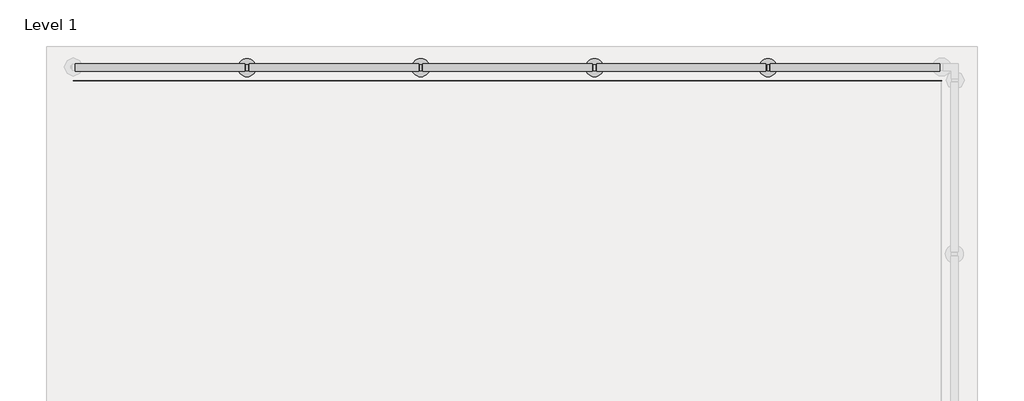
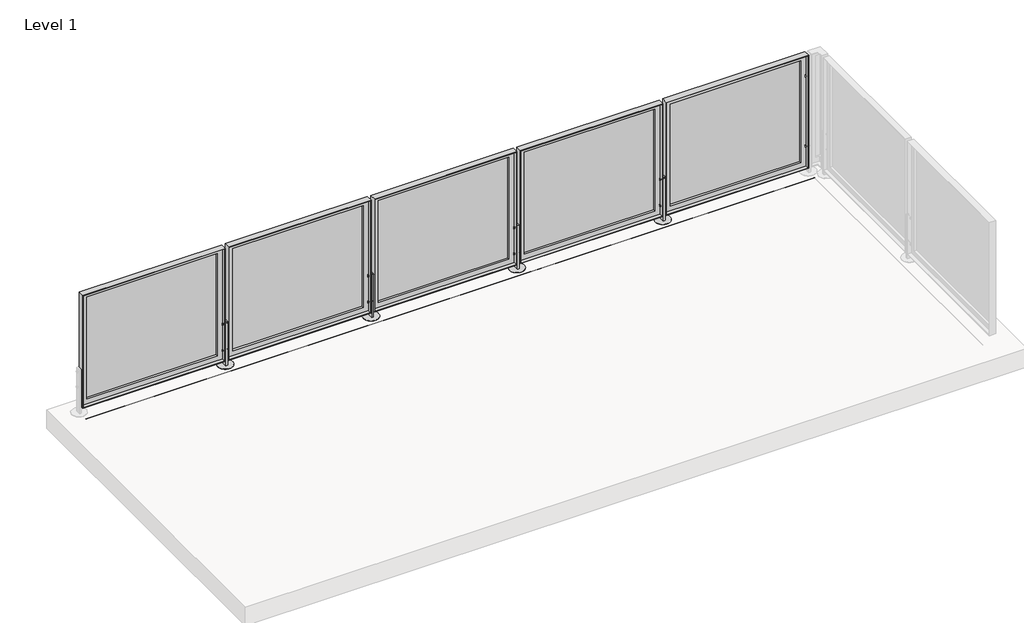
# One storey, part 29 of 37: 1 railing.
"""IFC4 building model written with IfcOpenShell, lengths in millimetres."""

from ifc_helpers import new_model, si_unit, point, frame, frame_2d, origin, origin_with_axes, place, context, project, spatial, polyline, circle_curve, trimmed, segment, composite_curve, outline, extrude, faceted_brep, element, save
from ifc_brep_helpers import plane_surface, cylinder_surface, advanced_brep

model = new_model("IFC4")

# Units and contexts
model_context = context("Model", 3, world=origin())
ifc_project = project(units=[si_unit("LENGTHUNIT", "METRE", prefix="MILLI")], contexts=[model_context])

# Site, building, storey
site = spatial("IfcSite", under=ifc_project)
building = spatial("IfcBuilding", under=site)
storey = spatial("IfcBuildingStorey", under=building, Name="Level 1", Elevation=0.0)

# Railing
placement = place(None, origin())
element("IfcRailing", 1, ObjectType="Metal-Panel-VIVA-FRAME-Top_Core-Straight", at=placement, inside=storey, context=model_context, shape_type="SolidModel", body=[
    extrude(outline(composite_curve([segment(trimmed(circle_curve(frame_2d((5915.4866335, -0.254)), 0.254), [point((5915.2326335, -0.254))], [point((5915.7406335, -0.254))], False, "CARTESIAN"), True, "CONTINUOUS"), segment(trimmed(circle_curve(frame_2d((5915.4866335, -0.254)), 0.254), [point((5915.7406335, -0.254))], [point((5915.2326335, -0.254))], False, "CARTESIAN"), True, "CONTINUOUS")], self_intersect=False)), frame((-39039.643347, 0.0, 0.0), z_axis=(1.0, 0.0, 0.0), x_axis=(0.0, 1.0, 0.0)), (0.0, 0.0, 1.0), 6350.0),
    extrude(outline(composite_curve([segment(trimmed(circle_curve(frame_2d((5915.4866335, -0.254)), 0.254), [point((5915.2326335, -0.254))], [point((5915.7406335, -0.254))], False, "CARTESIAN"), True, "CONTINUOUS"), segment(trimmed(circle_curve(frame_2d((5915.4866335, -0.254)), 0.254), [point((5915.7406335, -0.254))], [point((5915.2326335, -0.254))], False, "CARTESIAN"), True, "CONTINUOUS")], self_intersect=False)), frame((-39039.643347, 0.0, 0.0), z_axis=(1.0, 0.0, 0.0), x_axis=(0.0, 1.0, 0.0)), (0.0, 0.0, 1.0), 6350.0),
    extrude(outline(polyline([(-33918.8168901, 6038.2970335), (-32730.4698039, 6038.2970335), (-32730.4698039, 6035.2970335), (-33918.8168901, 6035.2970335), (-33918.8168901, 6038.2970335)])), frame((0.0, 0.0, 76.1959569), z_axis=(0.0, 0.0, 1.0), x_axis=(1.0, 0.0, 0.0)), (0.0, 0.0, 1.0), 990.5826861),
    faceted_brep([(-33944.2168901, 6038.2970335, 1092.1786431), (-32705.0698039, 6038.2970335, 1092.1786431), (-32705.0698039, 6038.2970335, 50.7959569), (-33944.2168901, 6038.2970335, 50.7959569), (-33918.8168901, 6038.2970335, 1066.7786431), (-33918.8168901, 6038.2970335, 76.1959569), (-32730.4698039, 6038.2970335, 76.1959569), (-32730.4698039, 6038.2970335, 1066.7786431), (-33918.8168901, 6035.2970335, 76.1959569), (-32730.4698039, 6035.2970335, 76.1959569), (-32730.4698039, 6035.2970335, 1066.7786431), (-33918.8168901, 6035.2970335, 1066.7786431), (-33938.2224901, 5984.4970335, 56.7903569), (-32711.0642039, 5984.4970335, 56.7903569), (-32711.0642039, 6015.3072335, 56.7903569), (-33938.2224901, 6015.3072335, 56.7903569), (-32711.0642039, 5984.4970335, 1086.1842431), (-32711.0642039, 6015.3072335, 1086.1842431), (-33938.2224901, 6015.3072335, 1086.1842431), (-33938.2224901, 5984.4970335, 1086.1842431), (-32705.0698039, 5984.4970335, 50.7959569), (-32705.0698039, 5984.4970335, 1092.1786431), (-33944.2168901, 5984.4970335, 1092.1786431), (-33944.2168901, 5984.4970335, 50.7959569), (-33893.4168901, 6035.2970335, 1041.3786431), (-33893.4168901, 6035.2970335, 101.5959569), (-32755.8698039, 6035.2970335, 101.5959569), (-32755.8698039, 6035.2970335, 1041.3786431), (-32755.8698039, 6015.3072335, 101.5959569), (-33893.4168901, 6015.3072335, 101.5959569), (-33893.4168901, 6015.3072335, 1041.3786431), (-32755.8698039, 6015.3072335, 1041.3786431)], [[[0, 1, 2, 3], [4, 5, 6, 7]], [[5, 8, 9, 6]], [[6, 9, 10, 7]], [[7, 10, 11, 4]], [[4, 11, 8, 5]], [[12, 13, 14, 15]], [[13, 16, 17, 14]], [[15, 18, 19, 12]], [[20, 21, 22, 23], [12, 19, 16, 13]], [[23, 22, 0, 3]], [[23, 3, 2, 20]], [[2, 1, 21, 20]], [[22, 21, 1, 0]], [[11, 10, 9, 8], [24, 25, 26, 27]], [[14, 17, 18, 15], [28, 29, 30, 31]], [[18, 17, 16, 19]], [[27, 31, 30, 24]], [[26, 28, 31, 27]], [[25, 29, 28, 26]], [[24, 30, 29, 25]]]),
    extrude(outline(composite_curve([segment(trimmed(circle_curve(frame_2d((-33959.643347, 6011.3970335)), 65.8876), [point((-33959.643347, 6077.2846335))], [point((-33959.643347, 5945.5094335))], False, "CARTESIAN"), True, "CONTINUOUS"), segment(trimmed(circle_curve(frame_2d((-33959.643347, 6011.3970335)), 65.8876), [point((-33959.643347, 5945.5094335))], [point((-33959.643347, 6077.2846335))], False, "CARTESIAN"), True, "CONTINUOUS")], self_intersect=False)), origin_with_axes(), (0.0, 0.0, 1.0), 2.9821299),
    advanced_brep(
    [(-33985.830747, 6011.3970335, 130.1496), (-33985.830747, 6011.3970335, 139.7), (-33985.830747, 6011.3970335, 149.2504), (-33981.055547, 6011.3970335, 130.1496), (-33981.055547, 6011.3970335, 149.2504), (-33981.055547, 6011.3970335, 134.9248), (-33981.055547, 6011.3970335, 144.4752), (-33938.231147, 6011.3970335, 134.9248), (-33938.231147, 6011.3970335, 144.4752), (-33938.231147, 6011.3970335, 130.1496), (-33938.231147, 6011.3970335, 149.2504), (-33933.455947, 6011.3970335, 130.1496), (-33933.455947, 6011.3970335, 149.2504), (-33933.455947, 6011.3970335, 139.7)],
    [
        (0, 1),
        (1, 2),
        (2, 0, circle_curve(frame((-33985.830747, 6011.3970335, 139.7), z_axis=(-1.0, 0.0, 0.0), x_axis=(0.0, 0.0, 1.0)), 9.5504)),
        (0, 2, circle_curve(frame((-33985.830747, 6011.3970335, 139.7), z_axis=(-1.0, 0.0, 0.0), x_axis=(0.0, 0.0, 1.0)), 9.5504)),
        (3, 0),
        (2, 4),
        (4, 3, circle_curve(frame((-33981.055547, 6011.3970335, 139.7), z_axis=(-1.0, 0.0, 0.0), x_axis=(0.0, 0.0, 1.0)), 9.5504)),
        (3, 4, circle_curve(frame((-33981.055547, 6011.3970335, 139.7), z_axis=(-1.0, 0.0, 0.0), x_axis=(0.0, 0.0, 1.0)), 9.5504)),
        (5, 3),
        (4, 6),
        (6, 5, circle_curve(frame((-33981.055547, 6011.3970335, 139.7), z_axis=(-1.0, 0.0, 0.0), x_axis=(0.0, 0.0, 1.0)), 4.7752)),
        (5, 6, circle_curve(frame((-33981.055547, 6011.3970335, 139.7), z_axis=(-1.0, 0.0, 0.0), x_axis=(0.0, 0.0, 1.0)), 4.7752)),
        (7, 5),
        (6, 8),
        (8, 7, circle_curve(frame((-33938.231147, 6011.3970335, 139.7), z_axis=(-1.0, 0.0, 0.0), x_axis=(0.0, 0.0, 1.0)), 4.7752)),
        (7, 8, circle_curve(frame((-33938.231147, 6011.3970335, 139.7), z_axis=(-1.0, 0.0, 0.0), x_axis=(0.0, 0.0, 1.0)), 4.7752)),
        (9, 7),
        (8, 10),
        (10, 9, circle_curve(frame((-33938.231147, 6011.3970335, 139.7), z_axis=(-1.0, 0.0, 0.0), x_axis=(0.0, 0.0, 1.0)), 9.5504)),
        (9, 10, circle_curve(frame((-33938.231147, 6011.3970335, 139.7), z_axis=(-1.0, 0.0, 0.0), x_axis=(0.0, 0.0, 1.0)), 9.5504)),
        (11, 9),
        (10, 12),
        (12, 11, circle_curve(frame((-33933.455947, 6011.3970335, 139.7), z_axis=(-1.0, 0.0, 0.0), x_axis=(0.0, 0.0, 1.0)), 9.5504)),
        (11, 12, circle_curve(frame((-33933.455947, 6011.3970335, 139.7), z_axis=(-1.0, 0.0, 0.0), x_axis=(0.0, 0.0, 1.0)), 9.5504)),
        (13, 11),
        (12, 13),
    ],
    [
        plane_surface(frame((-33985.830747, 6011.3970335, 139.7), z_axis=(-1.0, 0.0, 0.0), x_axis=(0.0, 0.0, 1.0))),
        cylinder_surface(frame((-37377.4111042, 6011.3970335, 139.7), z_axis=(1.0, 0.0, 0.0), x_axis=(0.0, 0.0, 1.0)), 9.5504),
        plane_surface(frame((-33981.055547, 6011.3970335, 139.7), z_axis=(1.0, 0.0, 0.0), x_axis=(0.0, 0.0, 1.0))),
        cylinder_surface(frame((-37377.4111042, 6011.3970335, 139.7), z_axis=(1.0, 0.0, 0.0), x_axis=(0.0, 0.0, 1.0)), 4.7752),
        plane_surface(frame((-33938.231147, 6011.3970335, 139.7), z_axis=(-1.0, 0.0, 0.0), x_axis=(0.0, 0.0, 1.0))),
        plane_surface(frame((-33933.455947, 6011.3970335, 139.7), z_axis=(1.0, 0.0, 0.0), x_axis=(0.0, 0.0, 1.0))),
    ],
    [
        (0, [[1, 2, 3]]),
        (0, [[-2, -1, 4]]),
        (1, [[5, -3, 6, 7]]),
        (1, [[-6, -4, -5, 8]]),
        (2, [[9, -7, 10, 11]]),
        (2, [[-10, -8, -9, 12]]),
        (3, [[13, -11, 14, 15]]),
        (3, [[-14, -12, -13, 16]]),
        (4, [[17, -15, 18, 19]]),
        (4, [[-18, -16, -17, 20]]),
        (1, [[21, -19, 22, 23]]),
        (1, [[-22, -20, -21, 24]]),
        (5, [[25, -23, 26]]),
        (5, [[-26, -24, -25]]),
    ],
),
    advanced_brep(
    [(-33985.830747, 6011.3970335, 371.4496), (-33985.830747, 6011.3970335, 381.0), (-33985.830747, 6011.3970335, 390.5504), (-33981.055547, 6011.3970335, 371.4496), (-33981.055547, 6011.3970335, 390.5504), (-33981.055547, 6011.3970335, 376.2248), (-33981.055547, 6011.3970335, 385.7752), (-33938.231147, 6011.3970335, 376.2248), (-33938.231147, 6011.3970335, 385.7752), (-33938.231147, 6011.3970335, 371.4496), (-33938.231147, 6011.3970335, 390.5504), (-33933.455947, 6011.3970335, 371.4496), (-33933.455947, 6011.3970335, 390.5504), (-33933.455947, 6011.3970335, 381.0)],
    [
        (0, 1),
        (1, 2),
        (2, 0, circle_curve(frame((-33985.830747, 6011.3970335, 381.0), z_axis=(-1.0, 0.0, 0.0), x_axis=(0.0, 0.0, 1.0)), 9.5504)),
        (0, 2, circle_curve(frame((-33985.830747, 6011.3970335, 381.0), z_axis=(-1.0, 0.0, 0.0), x_axis=(0.0, 0.0, 1.0)), 9.5504)),
        (3, 0),
        (2, 4),
        (4, 3, circle_curve(frame((-33981.055547, 6011.3970335, 381.0), z_axis=(-1.0, 0.0, 0.0), x_axis=(0.0, 0.0, 1.0)), 9.5504)),
        (3, 4, circle_curve(frame((-33981.055547, 6011.3970335, 381.0), z_axis=(-1.0, 0.0, 0.0), x_axis=(0.0, 0.0, 1.0)), 9.5504)),
        (5, 3),
        (4, 6),
        (6, 5, circle_curve(frame((-33981.055547, 6011.3970335, 381.0), z_axis=(-1.0, 0.0, 0.0), x_axis=(0.0, 0.0, 1.0)), 4.7752)),
        (5, 6, circle_curve(frame((-33981.055547, 6011.3970335, 381.0), z_axis=(-1.0, 0.0, 0.0), x_axis=(0.0, 0.0, 1.0)), 4.7752)),
        (7, 5),
        (6, 8),
        (8, 7, circle_curve(frame((-33938.231147, 6011.3970335, 381.0), z_axis=(-1.0, 0.0, 0.0), x_axis=(0.0, 0.0, 1.0)), 4.7752)),
        (7, 8, circle_curve(frame((-33938.231147, 6011.3970335, 381.0), z_axis=(-1.0, 0.0, 0.0), x_axis=(0.0, 0.0, 1.0)), 4.7752)),
        (9, 7),
        (8, 10),
        (10, 9, circle_curve(frame((-33938.231147, 6011.3970335, 381.0), z_axis=(-1.0, 0.0, 0.0), x_axis=(0.0, 0.0, 1.0)), 9.5504)),
        (9, 10, circle_curve(frame((-33938.231147, 6011.3970335, 381.0), z_axis=(-1.0, 0.0, 0.0), x_axis=(0.0, 0.0, 1.0)), 9.5504)),
        (11, 9),
        (10, 12),
        (12, 11, circle_curve(frame((-33933.455947, 6011.3970335, 381.0), z_axis=(-1.0, 0.0, 0.0), x_axis=(0.0, 0.0, 1.0)), 9.5504)),
        (11, 12, circle_curve(frame((-33933.455947, 6011.3970335, 381.0), z_axis=(-1.0, 0.0, 0.0), x_axis=(0.0, 0.0, 1.0)), 9.5504)),
        (13, 11),
        (12, 13),
    ],
    [
        plane_surface(frame((-33985.830747, 6011.3970335, 381.0), z_axis=(-1.0, 0.0, 0.0), x_axis=(0.0, 0.0, 1.0))),
        cylinder_surface(frame((-37377.4111042, 6011.3970335, 381.0), z_axis=(1.0, 0.0, 0.0), x_axis=(0.0, 0.0, 1.0)), 9.5504),
        plane_surface(frame((-33981.055547, 6011.3970335, 381.0), z_axis=(1.0, 0.0, 0.0), x_axis=(0.0, 0.0, 1.0))),
        cylinder_surface(frame((-37377.4111042, 6011.3970335, 381.0), z_axis=(1.0, 0.0, 0.0), x_axis=(0.0, 0.0, 1.0)), 4.7752),
        plane_surface(frame((-33938.231147, 6011.3970335, 381.0), z_axis=(-1.0, 0.0, 0.0), x_axis=(0.0, 0.0, 1.0))),
        plane_surface(frame((-33933.455947, 6011.3970335, 381.0), z_axis=(1.0, 0.0, 0.0), x_axis=(0.0, 0.0, 1.0))),
    ],
    [
        (0, [[1, 2, 3]]),
        (0, [[-2, -1, 4]]),
        (1, [[5, -3, 6, 7]]),
        (1, [[-6, -4, -5, 8]]),
        (2, [[9, -7, 10, 11]]),
        (2, [[-10, -8, -9, 12]]),
        (3, [[13, -11, 14, 15]]),
        (3, [[-14, -12, -13, 16]]),
        (4, [[17, -15, 18, 19]]),
        (4, [[-18, -16, -17, 20]]),
        (1, [[21, -19, 22, 23]]),
        (1, [[-22, -20, -21, 24]]),
        (5, [[25, -23, 26]]),
        (5, [[-26, -24, -25]]),
    ],
),
    extrude(outline(polyline([(-33967.5829387, 5989.1720335), (-33967.5829387, 6033.6220335), (-33951.7037554, 6033.6220335), (-33951.7037554, 5989.1720335), (-33967.5829387, 5989.1720335)])), frame((0.0, 0.0, -101.6), z_axis=(0.0, 0.0, 1.0), x_axis=(1.0, 0.0, 0.0)), (0.0, 0.0, 1.0), 508.0),
    extrude(outline(polyline([(-35188.8168901, 6038.2970335), (-34000.4698039, 6038.2970335), (-34000.4698039, 6035.2970335), (-35188.8168901, 6035.2970335), (-35188.8168901, 6038.2970335)])), frame((0.0, 0.0, 76.1959569), z_axis=(0.0, 0.0, 1.0), x_axis=(1.0, 0.0, 0.0)), (0.0, 0.0, 1.0), 990.5826861),
    faceted_brep([(-35214.2168901, 6038.2970335, 1092.1786431), (-33975.0698039, 6038.2970335, 1092.1786431), (-33975.0698039, 6038.2970335, 50.7959569), (-35214.2168901, 6038.2970335, 50.7959569), (-35188.8168901, 6038.2970335, 1066.7786431), (-35188.8168901, 6038.2970335, 76.1959569), (-34000.4698039, 6038.2970335, 76.1959569), (-34000.4698039, 6038.2970335, 1066.7786431), (-35188.8168901, 6035.2970335, 76.1959569), (-34000.4698039, 6035.2970335, 76.1959569), (-34000.4698039, 6035.2970335, 1066.7786431), (-35188.8168901, 6035.2970335, 1066.7786431), (-35208.2224901, 5984.4970335, 56.7903569), (-33981.0642039, 5984.4970335, 56.7903569), (-33981.0642039, 6015.3072335, 56.7903569), (-35208.2224901, 6015.3072335, 56.7903569), (-33981.0642039, 5984.4970335, 1086.1842431), (-33981.0642039, 6015.3072335, 1086.1842431), (-35208.2224901, 6015.3072335, 1086.1842431), (-35208.2224901, 5984.4970335, 1086.1842431), (-33975.0698039, 5984.4970335, 50.7959569), (-33975.0698039, 5984.4970335, 1092.1786431), (-35214.2168901, 5984.4970335, 1092.1786431), (-35214.2168901, 5984.4970335, 50.7959569), (-35163.4168901, 6035.2970335, 1041.3786431), (-35163.4168901, 6035.2970335, 101.5959569), (-34025.8698039, 6035.2970335, 101.5959569), (-34025.8698039, 6035.2970335, 1041.3786431), (-34025.8698039, 6015.3072335, 101.5959569), (-35163.4168901, 6015.3072335, 101.5959569), (-35163.4168901, 6015.3072335, 1041.3786431), (-34025.8698039, 6015.3072335, 1041.3786431)], [[[0, 1, 2, 3], [4, 5, 6, 7]], [[5, 8, 9, 6]], [[6, 9, 10, 7]], [[7, 10, 11, 4]], [[4, 11, 8, 5]], [[12, 13, 14, 15]], [[13, 16, 17, 14]], [[15, 18, 19, 12]], [[20, 21, 22, 23], [12, 19, 16, 13]], [[23, 22, 0, 3]], [[23, 3, 2, 20]], [[2, 1, 21, 20]], [[22, 21, 1, 0]], [[11, 10, 9, 8], [24, 25, 26, 27]], [[14, 17, 18, 15], [28, 29, 30, 31]], [[18, 17, 16, 19]], [[27, 31, 30, 24]], [[26, 28, 31, 27]], [[25, 29, 28, 26]], [[24, 30, 29, 25]]]),
    extrude(outline(composite_curve([segment(trimmed(circle_curve(frame_2d((-35229.643347, 6011.3970335)), 65.8876), [point((-35229.643347, 6077.2846335))], [point((-35229.643347, 5945.5094335))], False, "CARTESIAN"), True, "CONTINUOUS"), segment(trimmed(circle_curve(frame_2d((-35229.643347, 6011.3970335)), 65.8876), [point((-35229.643347, 5945.5094335))], [point((-35229.643347, 6077.2846335))], False, "CARTESIAN"), True, "CONTINUOUS")], self_intersect=False)), origin_with_axes(), (0.0, 0.0, 1.0), 2.9821299),
    advanced_brep(
    [(-35255.830747, 6011.3970335, 130.1496), (-35255.830747, 6011.3970335, 139.7), (-35255.830747, 6011.3970335, 149.2504), (-35251.055547, 6011.3970335, 130.1496), (-35251.055547, 6011.3970335, 149.2504), (-35251.055547, 6011.3970335, 134.9248), (-35251.055547, 6011.3970335, 144.4752), (-35208.231147, 6011.3970335, 134.9248), (-35208.231147, 6011.3970335, 144.4752), (-35208.231147, 6011.3970335, 130.1496), (-35208.231147, 6011.3970335, 149.2504), (-35203.455947, 6011.3970335, 130.1496), (-35203.455947, 6011.3970335, 149.2504), (-35203.455947, 6011.3970335, 139.7)],
    [
        (0, 1),
        (1, 2),
        (2, 0, circle_curve(frame((-35255.830747, 6011.3970335, 139.7), z_axis=(-1.0, 0.0, 0.0), x_axis=(0.0, 0.0, 1.0)), 9.5504)),
        (0, 2, circle_curve(frame((-35255.830747, 6011.3970335, 139.7), z_axis=(-1.0, 0.0, 0.0), x_axis=(0.0, 0.0, 1.0)), 9.5504)),
        (3, 0),
        (2, 4),
        (4, 3, circle_curve(frame((-35251.055547, 6011.3970335, 139.7), z_axis=(-1.0, 0.0, 0.0), x_axis=(0.0, 0.0, 1.0)), 9.5504)),
        (3, 4, circle_curve(frame((-35251.055547, 6011.3970335, 139.7), z_axis=(-1.0, 0.0, 0.0), x_axis=(0.0, 0.0, 1.0)), 9.5504)),
        (5, 3),
        (4, 6),
        (6, 5, circle_curve(frame((-35251.055547, 6011.3970335, 139.7), z_axis=(-1.0, 0.0, 0.0), x_axis=(0.0, 0.0, 1.0)), 4.7752)),
        (5, 6, circle_curve(frame((-35251.055547, 6011.3970335, 139.7), z_axis=(-1.0, 0.0, 0.0), x_axis=(0.0, 0.0, 1.0)), 4.7752)),
        (7, 5),
        (6, 8),
        (8, 7, circle_curve(frame((-35208.231147, 6011.3970335, 139.7), z_axis=(-1.0, 0.0, 0.0), x_axis=(0.0, 0.0, 1.0)), 4.7752)),
        (7, 8, circle_curve(frame((-35208.231147, 6011.3970335, 139.7), z_axis=(-1.0, 0.0, 0.0), x_axis=(0.0, 0.0, 1.0)), 4.7752)),
        (9, 7),
        (8, 10),
        (10, 9, circle_curve(frame((-35208.231147, 6011.3970335, 139.7), z_axis=(-1.0, 0.0, 0.0), x_axis=(0.0, 0.0, 1.0)), 9.5504)),
        (9, 10, circle_curve(frame((-35208.231147, 6011.3970335, 139.7), z_axis=(-1.0, 0.0, 0.0), x_axis=(0.0, 0.0, 1.0)), 9.5504)),
        (11, 9),
        (10, 12),
        (12, 11, circle_curve(frame((-35203.455947, 6011.3970335, 139.7), z_axis=(-1.0, 0.0, 0.0), x_axis=(0.0, 0.0, 1.0)), 9.5504)),
        (11, 12, circle_curve(frame((-35203.455947, 6011.3970335, 139.7), z_axis=(-1.0, 0.0, 0.0), x_axis=(0.0, 0.0, 1.0)), 9.5504)),
        (13, 11),
        (12, 13),
    ],
    [
        plane_surface(frame((-35255.830747, 6011.3970335, 139.7), z_axis=(-1.0, 0.0, 0.0), x_axis=(0.0, 0.0, 1.0))),
        cylinder_surface(frame((-38647.4111042, 6011.3970335, 139.7), z_axis=(1.0, 0.0, 0.0), x_axis=(0.0, 0.0, 1.0)), 9.5504),
        plane_surface(frame((-35251.055547, 6011.3970335, 139.7), z_axis=(1.0, 0.0, 0.0), x_axis=(0.0, 0.0, 1.0))),
        cylinder_surface(frame((-38647.4111042, 6011.3970335, 139.7), z_axis=(1.0, 0.0, 0.0), x_axis=(0.0, 0.0, 1.0)), 4.7752),
        plane_surface(frame((-35208.231147, 6011.3970335, 139.7), z_axis=(-1.0, 0.0, 0.0), x_axis=(0.0, 0.0, 1.0))),
        plane_surface(frame((-35203.455947, 6011.3970335, 139.7), z_axis=(1.0, 0.0, 0.0), x_axis=(0.0, 0.0, 1.0))),
    ],
    [
        (0, [[1, 2, 3]]),
        (0, [[-2, -1, 4]]),
        (1, [[5, -3, 6, 7]]),
        (1, [[-6, -4, -5, 8]]),
        (2, [[9, -7, 10, 11]]),
        (2, [[-10, -8, -9, 12]]),
        (3, [[13, -11, 14, 15]]),
        (3, [[-14, -12, -13, 16]]),
        (4, [[17, -15, 18, 19]]),
        (4, [[-18, -16, -17, 20]]),
        (1, [[21, -19, 22, 23]]),
        (1, [[-22, -20, -21, 24]]),
        (5, [[25, -23, 26]]),
        (5, [[-26, -24, -25]]),
    ],
),
    advanced_brep(
    [(-35255.830747, 6011.3970335, 371.4496), (-35255.830747, 6011.3970335, 381.0), (-35255.830747, 6011.3970335, 390.5504), (-35251.055547, 6011.3970335, 371.4496), (-35251.055547, 6011.3970335, 390.5504), (-35251.055547, 6011.3970335, 376.2248), (-35251.055547, 6011.3970335, 385.7752), (-35208.231147, 6011.3970335, 376.2248), (-35208.231147, 6011.3970335, 385.7752), (-35208.231147, 6011.3970335, 371.4496), (-35208.231147, 6011.3970335, 390.5504), (-35203.455947, 6011.3970335, 371.4496), (-35203.455947, 6011.3970335, 390.5504), (-35203.455947, 6011.3970335, 381.0)],
    [
        (0, 1),
        (1, 2),
        (2, 0, circle_curve(frame((-35255.830747, 6011.3970335, 381.0), z_axis=(-1.0, 0.0, 0.0), x_axis=(0.0, 0.0, 1.0)), 9.5504)),
        (0, 2, circle_curve(frame((-35255.830747, 6011.3970335, 381.0), z_axis=(-1.0, 0.0, 0.0), x_axis=(0.0, 0.0, 1.0)), 9.5504)),
        (3, 0),
        (2, 4),
        (4, 3, circle_curve(frame((-35251.055547, 6011.3970335, 381.0), z_axis=(-1.0, 0.0, 0.0), x_axis=(0.0, 0.0, 1.0)), 9.5504)),
        (3, 4, circle_curve(frame((-35251.055547, 6011.3970335, 381.0), z_axis=(-1.0, 0.0, 0.0), x_axis=(0.0, 0.0, 1.0)), 9.5504)),
        (5, 3),
        (4, 6),
        (6, 5, circle_curve(frame((-35251.055547, 6011.3970335, 381.0), z_axis=(-1.0, 0.0, 0.0), x_axis=(0.0, 0.0, 1.0)), 4.7752)),
        (5, 6, circle_curve(frame((-35251.055547, 6011.3970335, 381.0), z_axis=(-1.0, 0.0, 0.0), x_axis=(0.0, 0.0, 1.0)), 4.7752)),
        (7, 5),
        (6, 8),
        (8, 7, circle_curve(frame((-35208.231147, 6011.3970335, 381.0), z_axis=(-1.0, 0.0, 0.0), x_axis=(0.0, 0.0, 1.0)), 4.7752)),
        (7, 8, circle_curve(frame((-35208.231147, 6011.3970335, 381.0), z_axis=(-1.0, 0.0, 0.0), x_axis=(0.0, 0.0, 1.0)), 4.7752)),
        (9, 7),
        (8, 10),
        (10, 9, circle_curve(frame((-35208.231147, 6011.3970335, 381.0), z_axis=(-1.0, 0.0, 0.0), x_axis=(0.0, 0.0, 1.0)), 9.5504)),
        (9, 10, circle_curve(frame((-35208.231147, 6011.3970335, 381.0), z_axis=(-1.0, 0.0, 0.0), x_axis=(0.0, 0.0, 1.0)), 9.5504)),
        (11, 9),
        (10, 12),
        (12, 11, circle_curve(frame((-35203.455947, 6011.3970335, 381.0), z_axis=(-1.0, 0.0, 0.0), x_axis=(0.0, 0.0, 1.0)), 9.5504)),
        (11, 12, circle_curve(frame((-35203.455947, 6011.3970335, 381.0), z_axis=(-1.0, 0.0, 0.0), x_axis=(0.0, 0.0, 1.0)), 9.5504)),
        (13, 11),
        (12, 13),
    ],
    [
        plane_surface(frame((-35255.830747, 6011.3970335, 381.0), z_axis=(-1.0, 0.0, 0.0), x_axis=(0.0, 0.0, 1.0))),
        cylinder_surface(frame((-38647.4111042, 6011.3970335, 381.0), z_axis=(1.0, 0.0, 0.0), x_axis=(0.0, 0.0, 1.0)), 9.5504),
        plane_surface(frame((-35251.055547, 6011.3970335, 381.0), z_axis=(1.0, 0.0, 0.0), x_axis=(0.0, 0.0, 1.0))),
        cylinder_surface(frame((-38647.4111042, 6011.3970335, 381.0), z_axis=(1.0, 0.0, 0.0), x_axis=(0.0, 0.0, 1.0)), 4.7752),
        plane_surface(frame((-35208.231147, 6011.3970335, 381.0), z_axis=(-1.0, 0.0, 0.0), x_axis=(0.0, 0.0, 1.0))),
        plane_surface(frame((-35203.455947, 6011.3970335, 381.0), z_axis=(1.0, 0.0, 0.0), x_axis=(0.0, 0.0, 1.0))),
    ],
    [
        (0, [[1, 2, 3]]),
        (0, [[-2, -1, 4]]),
        (1, [[5, -3, 6, 7]]),
        (1, [[-6, -4, -5, 8]]),
        (2, [[9, -7, 10, 11]]),
        (2, [[-10, -8, -9, 12]]),
        (3, [[13, -11, 14, 15]]),
        (3, [[-14, -12, -13, 16]]),
        (4, [[17, -15, 18, 19]]),
        (4, [[-18, -16, -17, 20]]),
        (1, [[21, -19, 22, 23]]),
        (1, [[-22, -20, -21, 24]]),
        (5, [[25, -23, 26]]),
        (5, [[-26, -24, -25]]),
    ],
),
    extrude(outline(polyline([(-35237.5829387, 5989.1720335), (-35237.5829387, 6033.6220335), (-35221.7037554, 6033.6220335), (-35221.7037554, 5989.1720335), (-35237.5829387, 5989.1720335)])), frame((0.0, 0.0, -101.6), z_axis=(0.0, 0.0, 1.0), x_axis=(1.0, 0.0, 0.0)), (0.0, 0.0, 1.0), 508.0),
    extrude(outline(polyline([(-36458.8168901, 6038.2970335), (-35270.4698039, 6038.2970335), (-35270.4698039, 6035.2970335), (-36458.8168901, 6035.2970335), (-36458.8168901, 6038.2970335)])), frame((0.0, 0.0, 76.1959569), z_axis=(0.0, 0.0, 1.0), x_axis=(1.0, 0.0, 0.0)), (0.0, 0.0, 1.0), 990.5826861),
    faceted_brep([(-36484.2168901, 6038.2970335, 1092.1786431), (-35245.0698039, 6038.2970335, 1092.1786431), (-35245.0698039, 6038.2970335, 50.7959569), (-36484.2168901, 6038.2970335, 50.7959569), (-36458.8168901, 6038.2970335, 1066.7786431), (-36458.8168901, 6038.2970335, 76.1959569), (-35270.4698039, 6038.2970335, 76.1959569), (-35270.4698039, 6038.2970335, 1066.7786431), (-36458.8168901, 6035.2970335, 76.1959569), (-35270.4698039, 6035.2970335, 76.1959569), (-35270.4698039, 6035.2970335, 1066.7786431), (-36458.8168901, 6035.2970335, 1066.7786431), (-36478.2224901, 5984.4970335, 56.7903569), (-35251.0642039, 5984.4970335, 56.7903569), (-35251.0642039, 6015.3072335, 56.7903569), (-36478.2224901, 6015.3072335, 56.7903569), (-35251.0642039, 5984.4970335, 1086.1842431), (-35251.0642039, 6015.3072335, 1086.1842431), (-36478.2224901, 6015.3072335, 1086.1842431), (-36478.2224901, 5984.4970335, 1086.1842431), (-35245.0698039, 5984.4970335, 50.7959569), (-35245.0698039, 5984.4970335, 1092.1786431), (-36484.2168901, 5984.4970335, 1092.1786431), (-36484.2168901, 5984.4970335, 50.7959569), (-36433.4168901, 6035.2970335, 1041.3786431), (-36433.4168901, 6035.2970335, 101.5959569), (-35295.8698039, 6035.2970335, 101.5959569), (-35295.8698039, 6035.2970335, 1041.3786431), (-35295.8698039, 6015.3072335, 101.5959569), (-36433.4168901, 6015.3072335, 101.5959569), (-36433.4168901, 6015.3072335, 1041.3786431), (-35295.8698039, 6015.3072335, 1041.3786431)], [[[0, 1, 2, 3], [4, 5, 6, 7]], [[5, 8, 9, 6]], [[6, 9, 10, 7]], [[7, 10, 11, 4]], [[4, 11, 8, 5]], [[12, 13, 14, 15]], [[13, 16, 17, 14]], [[15, 18, 19, 12]], [[20, 21, 22, 23], [12, 19, 16, 13]], [[23, 22, 0, 3]], [[23, 3, 2, 20]], [[2, 1, 21, 20]], [[22, 21, 1, 0]], [[11, 10, 9, 8], [24, 25, 26, 27]], [[14, 17, 18, 15], [28, 29, 30, 31]], [[18, 17, 16, 19]], [[27, 31, 30, 24]], [[26, 28, 31, 27]], [[25, 29, 28, 26]], [[24, 30, 29, 25]]]),
    extrude(outline(composite_curve([segment(trimmed(circle_curve(frame_2d((-36499.643347, 6011.3970335)), 65.8876), [point((-36499.643347, 6077.2846335))], [point((-36499.643347, 5945.5094335))], False, "CARTESIAN"), True, "CONTINUOUS"), segment(trimmed(circle_curve(frame_2d((-36499.643347, 6011.3970335)), 65.8876), [point((-36499.643347, 5945.5094335))], [point((-36499.643347, 6077.2846335))], False, "CARTESIAN"), True, "CONTINUOUS")], self_intersect=False)), origin_with_axes(), (0.0, 0.0, 1.0), 2.9821299),
    advanced_brep(
    [(-36525.830747, 6011.3970335, 130.1496), (-36525.830747, 6011.3970335, 139.7), (-36525.830747, 6011.3970335, 149.2504), (-36521.055547, 6011.3970335, 130.1496), (-36521.055547, 6011.3970335, 149.2504), (-36521.055547, 6011.3970335, 134.9248), (-36521.055547, 6011.3970335, 144.4752), (-36478.231147, 6011.3970335, 134.9248), (-36478.231147, 6011.3970335, 144.4752), (-36478.231147, 6011.3970335, 130.1496), (-36478.231147, 6011.3970335, 149.2504), (-36473.455947, 6011.3970335, 130.1496), (-36473.455947, 6011.3970335, 149.2504), (-36473.455947, 6011.3970335, 139.7)],
    [
        (0, 1),
        (1, 2),
        (2, 0, circle_curve(frame((-36525.830747, 6011.3970335, 139.7), z_axis=(-1.0, 0.0, 0.0), x_axis=(0.0, 0.0, 1.0)), 9.5504)),
        (0, 2, circle_curve(frame((-36525.830747, 6011.3970335, 139.7), z_axis=(-1.0, 0.0, 0.0), x_axis=(0.0, 0.0, 1.0)), 9.5504)),
        (3, 0),
        (2, 4),
        (4, 3, circle_curve(frame((-36521.055547, 6011.3970335, 139.7), z_axis=(-1.0, 0.0, 0.0), x_axis=(0.0, 0.0, 1.0)), 9.5504)),
        (3, 4, circle_curve(frame((-36521.055547, 6011.3970335, 139.7), z_axis=(-1.0, 0.0, 0.0), x_axis=(0.0, 0.0, 1.0)), 9.5504)),
        (5, 3),
        (4, 6),
        (6, 5, circle_curve(frame((-36521.055547, 6011.3970335, 139.7), z_axis=(-1.0, 0.0, 0.0), x_axis=(0.0, 0.0, 1.0)), 4.7752)),
        (5, 6, circle_curve(frame((-36521.055547, 6011.3970335, 139.7), z_axis=(-1.0, 0.0, 0.0), x_axis=(0.0, 0.0, 1.0)), 4.7752)),
        (7, 5),
        (6, 8),
        (8, 7, circle_curve(frame((-36478.231147, 6011.3970335, 139.7), z_axis=(-1.0, 0.0, 0.0), x_axis=(0.0, 0.0, 1.0)), 4.7752)),
        (7, 8, circle_curve(frame((-36478.231147, 6011.3970335, 139.7), z_axis=(-1.0, 0.0, 0.0), x_axis=(0.0, 0.0, 1.0)), 4.7752)),
        (9, 7),
        (8, 10),
        (10, 9, circle_curve(frame((-36478.231147, 6011.3970335, 139.7), z_axis=(-1.0, 0.0, 0.0), x_axis=(0.0, 0.0, 1.0)), 9.5504)),
        (9, 10, circle_curve(frame((-36478.231147, 6011.3970335, 139.7), z_axis=(-1.0, 0.0, 0.0), x_axis=(0.0, 0.0, 1.0)), 9.5504)),
        (11, 9),
        (10, 12),
        (12, 11, circle_curve(frame((-36473.455947, 6011.3970335, 139.7), z_axis=(-1.0, 0.0, 0.0), x_axis=(0.0, 0.0, 1.0)), 9.5504)),
        (11, 12, circle_curve(frame((-36473.455947, 6011.3970335, 139.7), z_axis=(-1.0, 0.0, 0.0), x_axis=(0.0, 0.0, 1.0)), 9.5504)),
        (13, 11),
        (12, 13),
    ],
    [
        plane_surface(frame((-36525.830747, 6011.3970335, 139.7), z_axis=(-1.0, 0.0, 0.0), x_axis=(0.0, 0.0, 1.0))),
        cylinder_surface(frame((-39917.4111042, 6011.3970335, 139.7), z_axis=(1.0, 0.0, 0.0), x_axis=(0.0, 0.0, 1.0)), 9.5504),
        plane_surface(frame((-36521.055547, 6011.3970335, 139.7), z_axis=(1.0, 0.0, 0.0), x_axis=(0.0, 0.0, 1.0))),
        cylinder_surface(frame((-39917.4111042, 6011.3970335, 139.7), z_axis=(1.0, 0.0, 0.0), x_axis=(0.0, 0.0, 1.0)), 4.7752),
        plane_surface(frame((-36478.231147, 6011.3970335, 139.7), z_axis=(-1.0, 0.0, 0.0), x_axis=(0.0, 0.0, 1.0))),
        plane_surface(frame((-36473.455947, 6011.3970335, 139.7), z_axis=(1.0, 0.0, 0.0), x_axis=(0.0, 0.0, 1.0))),
    ],
    [
        (0, [[1, 2, 3]]),
        (0, [[-2, -1, 4]]),
        (1, [[5, -3, 6, 7]]),
        (1, [[-6, -4, -5, 8]]),
        (2, [[9, -7, 10, 11]]),
        (2, [[-10, -8, -9, 12]]),
        (3, [[13, -11, 14, 15]]),
        (3, [[-14, -12, -13, 16]]),
        (4, [[17, -15, 18, 19]]),
        (4, [[-18, -16, -17, 20]]),
        (1, [[21, -19, 22, 23]]),
        (1, [[-22, -20, -21, 24]]),
        (5, [[25, -23, 26]]),
        (5, [[-26, -24, -25]]),
    ],
),
    advanced_brep(
    [(-36525.830747, 6011.3970335, 371.4496), (-36525.830747, 6011.3970335, 381.0), (-36525.830747, 6011.3970335, 390.5504), (-36521.055547, 6011.3970335, 371.4496), (-36521.055547, 6011.3970335, 390.5504), (-36521.055547, 6011.3970335, 376.2248), (-36521.055547, 6011.3970335, 385.7752), (-36478.231147, 6011.3970335, 376.2248), (-36478.231147, 6011.3970335, 385.7752), (-36478.231147, 6011.3970335, 371.4496), (-36478.231147, 6011.3970335, 390.5504), (-36473.455947, 6011.3970335, 371.4496), (-36473.455947, 6011.3970335, 390.5504), (-36473.455947, 6011.3970335, 381.0)],
    [
        (0, 1),
        (1, 2),
        (2, 0, circle_curve(frame((-36525.830747, 6011.3970335, 381.0), z_axis=(-1.0, 0.0, 0.0), x_axis=(0.0, 0.0, 1.0)), 9.5504)),
        (0, 2, circle_curve(frame((-36525.830747, 6011.3970335, 381.0), z_axis=(-1.0, 0.0, 0.0), x_axis=(0.0, 0.0, 1.0)), 9.5504)),
        (3, 0),
        (2, 4),
        (4, 3, circle_curve(frame((-36521.055547, 6011.3970335, 381.0), z_axis=(-1.0, 0.0, 0.0), x_axis=(0.0, 0.0, 1.0)), 9.5504)),
        (3, 4, circle_curve(frame((-36521.055547, 6011.3970335, 381.0), z_axis=(-1.0, 0.0, 0.0), x_axis=(0.0, 0.0, 1.0)), 9.5504)),
        (5, 3),
        (4, 6),
        (6, 5, circle_curve(frame((-36521.055547, 6011.3970335, 381.0), z_axis=(-1.0, 0.0, 0.0), x_axis=(0.0, 0.0, 1.0)), 4.7752)),
        (5, 6, circle_curve(frame((-36521.055547, 6011.3970335, 381.0), z_axis=(-1.0, 0.0, 0.0), x_axis=(0.0, 0.0, 1.0)), 4.7752)),
        (7, 5),
        (6, 8),
        (8, 7, circle_curve(frame((-36478.231147, 6011.3970335, 381.0), z_axis=(-1.0, 0.0, 0.0), x_axis=(0.0, 0.0, 1.0)), 4.7752)),
        (7, 8, circle_curve(frame((-36478.231147, 6011.3970335, 381.0), z_axis=(-1.0, 0.0, 0.0), x_axis=(0.0, 0.0, 1.0)), 4.7752)),
        (9, 7),
        (8, 10),
        (10, 9, circle_curve(frame((-36478.231147, 6011.3970335, 381.0), z_axis=(-1.0, 0.0, 0.0), x_axis=(0.0, 0.0, 1.0)), 9.5504)),
        (9, 10, circle_curve(frame((-36478.231147, 6011.3970335, 381.0), z_axis=(-1.0, 0.0, 0.0), x_axis=(0.0, 0.0, 1.0)), 9.5504)),
        (11, 9),
        (10, 12),
        (12, 11, circle_curve(frame((-36473.455947, 6011.3970335, 381.0), z_axis=(-1.0, 0.0, 0.0), x_axis=(0.0, 0.0, 1.0)), 9.5504)),
        (11, 12, circle_curve(frame((-36473.455947, 6011.3970335, 381.0), z_axis=(-1.0, 0.0, 0.0), x_axis=(0.0, 0.0, 1.0)), 9.5504)),
        (13, 11),
        (12, 13),
    ],
    [
        plane_surface(frame((-36525.830747, 6011.3970335, 381.0), z_axis=(-1.0, 0.0, 0.0), x_axis=(0.0, 0.0, 1.0))),
        cylinder_surface(frame((-39917.4111042, 6011.3970335, 381.0), z_axis=(1.0, 0.0, 0.0), x_axis=(0.0, 0.0, 1.0)), 9.5504),
        plane_surface(frame((-36521.055547, 6011.3970335, 381.0), z_axis=(1.0, 0.0, 0.0), x_axis=(0.0, 0.0, 1.0))),
        cylinder_surface(frame((-39917.4111042, 6011.3970335, 381.0), z_axis=(1.0, 0.0, 0.0), x_axis=(0.0, 0.0, 1.0)), 4.7752),
        plane_surface(frame((-36478.231147, 6011.3970335, 381.0), z_axis=(-1.0, 0.0, 0.0), x_axis=(0.0, 0.0, 1.0))),
        plane_surface(frame((-36473.455947, 6011.3970335, 381.0), z_axis=(1.0, 0.0, 0.0), x_axis=(0.0, 0.0, 1.0))),
    ],
    [
        (0, [[1, 2, 3]]),
        (0, [[-2, -1, 4]]),
        (1, [[5, -3, 6, 7]]),
        (1, [[-6, -4, -5, 8]]),
        (2, [[9, -7, 10, 11]]),
        (2, [[-10, -8, -9, 12]]),
        (3, [[13, -11, 14, 15]]),
        (3, [[-14, -12, -13, 16]]),
        (4, [[17, -15, 18, 19]]),
        (4, [[-18, -16, -17, 20]]),
        (1, [[21, -19, 22, 23]]),
        (1, [[-22, -20, -21, 24]]),
        (5, [[25, -23, 26]]),
        (5, [[-26, -24, -25]]),
    ],
),
    extrude(outline(polyline([(-36507.5829387, 5989.1720335), (-36507.5829387, 6033.6220335), (-36491.7037554, 6033.6220335), (-36491.7037554, 5989.1720335), (-36507.5829387, 5989.1720335)])), frame((0.0, 0.0, -101.6), z_axis=(0.0, 0.0, 1.0), x_axis=(1.0, 0.0, 0.0)), (0.0, 0.0, 1.0), 508.0),
    extrude(outline(polyline([(-37728.8168901, 6038.2970335), (-36540.4698039, 6038.2970335), (-36540.4698039, 6035.2970335), (-37728.8168901, 6035.2970335), (-37728.8168901, 6038.2970335)])), frame((0.0, 0.0, 76.1959569), z_axis=(0.0, 0.0, 1.0), x_axis=(1.0, 0.0, 0.0)), (0.0, 0.0, 1.0), 990.5826861),
    faceted_brep([(-37754.2168901, 6038.2970335, 1092.1786431), (-36515.0698039, 6038.2970335, 1092.1786431), (-36515.0698039, 6038.2970335, 50.7959569), (-37754.2168901, 6038.2970335, 50.7959569), (-37728.8168901, 6038.2970335, 1066.7786431), (-37728.8168901, 6038.2970335, 76.1959569), (-36540.4698039, 6038.2970335, 76.1959569), (-36540.4698039, 6038.2970335, 1066.7786431), (-37728.8168901, 6035.2970335, 76.1959569), (-36540.4698039, 6035.2970335, 76.1959569), (-36540.4698039, 6035.2970335, 1066.7786431), (-37728.8168901, 6035.2970335, 1066.7786431), (-37748.2224901, 5984.4970335, 56.7903569), (-36521.0642039, 5984.4970335, 56.7903569), (-36521.0642039, 6015.3072335, 56.7903569), (-37748.2224901, 6015.3072335, 56.7903569), (-36521.0642039, 5984.4970335, 1086.1842431), (-36521.0642039, 6015.3072335, 1086.1842431), (-37748.2224901, 6015.3072335, 1086.1842431), (-37748.2224901, 5984.4970335, 1086.1842431), (-36515.0698039, 5984.4970335, 50.7959569), (-36515.0698039, 5984.4970335, 1092.1786431), (-37754.2168901, 5984.4970335, 1092.1786431), (-37754.2168901, 5984.4970335, 50.7959569), (-37703.4168901, 6035.2970335, 1041.3786431), (-37703.4168901, 6035.2970335, 101.5959569), (-36565.8698039, 6035.2970335, 101.5959569), (-36565.8698039, 6035.2970335, 1041.3786431), (-36565.8698039, 6015.3072335, 101.5959569), (-37703.4168901, 6015.3072335, 101.5959569), (-37703.4168901, 6015.3072335, 1041.3786431), (-36565.8698039, 6015.3072335, 1041.3786431)], [[[0, 1, 2, 3], [4, 5, 6, 7]], [[5, 8, 9, 6]], [[6, 9, 10, 7]], [[7, 10, 11, 4]], [[4, 11, 8, 5]], [[12, 13, 14, 15]], [[13, 16, 17, 14]], [[15, 18, 19, 12]], [[20, 21, 22, 23], [12, 19, 16, 13]], [[23, 22, 0, 3]], [[23, 3, 2, 20]], [[2, 1, 21, 20]], [[22, 21, 1, 0]], [[11, 10, 9, 8], [24, 25, 26, 27]], [[14, 17, 18, 15], [28, 29, 30, 31]], [[18, 17, 16, 19]], [[27, 31, 30, 24]], [[26, 28, 31, 27]], [[25, 29, 28, 26]], [[24, 30, 29, 25]]]),
    extrude(outline(composite_curve([segment(trimmed(circle_curve(frame_2d((-37769.643347, 6011.3970335)), 65.8876), [point((-37769.643347, 6077.2846335))], [point((-37769.643347, 5945.5094335))], False, "CARTESIAN"), True, "CONTINUOUS"), segment(trimmed(circle_curve(frame_2d((-37769.643347, 6011.3970335)), 65.8876), [point((-37769.643347, 5945.5094335))], [point((-37769.643347, 6077.2846335))], False, "CARTESIAN"), True, "CONTINUOUS")], self_intersect=False)), origin_with_axes(), (0.0, 0.0, 1.0), 2.9821299),
    advanced_brep(
    [(-37795.830747, 6011.3970335, 130.1496), (-37795.830747, 6011.3970335, 139.7), (-37795.830747, 6011.3970335, 149.2504), (-37791.055547, 6011.3970335, 130.1496), (-37791.055547, 6011.3970335, 149.2504), (-37791.055547, 6011.3970335, 134.9248), (-37791.055547, 6011.3970335, 144.4752), (-37748.231147, 6011.3970335, 134.9248), (-37748.231147, 6011.3970335, 144.4752), (-37748.231147, 6011.3970335, 130.1496), (-37748.231147, 6011.3970335, 149.2504), (-37743.455947, 6011.3970335, 130.1496), (-37743.455947, 6011.3970335, 149.2504), (-37743.455947, 6011.3970335, 139.7)],
    [
        (0, 1),
        (1, 2),
        (2, 0, circle_curve(frame((-37795.830747, 6011.3970335, 139.7), z_axis=(-1.0, 0.0, 0.0), x_axis=(0.0, 0.0, 1.0)), 9.5504)),
        (0, 2, circle_curve(frame((-37795.830747, 6011.3970335, 139.7), z_axis=(-1.0, 0.0, 0.0), x_axis=(0.0, 0.0, 1.0)), 9.5504)),
        (3, 0),
        (2, 4),
        (4, 3, circle_curve(frame((-37791.055547, 6011.3970335, 139.7), z_axis=(-1.0, 0.0, 0.0), x_axis=(0.0, 0.0, 1.0)), 9.5504)),
        (3, 4, circle_curve(frame((-37791.055547, 6011.3970335, 139.7), z_axis=(-1.0, 0.0, 0.0), x_axis=(0.0, 0.0, 1.0)), 9.5504)),
        (5, 3),
        (4, 6),
        (6, 5, circle_curve(frame((-37791.055547, 6011.3970335, 139.7), z_axis=(-1.0, 0.0, 0.0), x_axis=(0.0, 0.0, 1.0)), 4.7752)),
        (5, 6, circle_curve(frame((-37791.055547, 6011.3970335, 139.7), z_axis=(-1.0, 0.0, 0.0), x_axis=(0.0, 0.0, 1.0)), 4.7752)),
        (7, 5),
        (6, 8),
        (8, 7, circle_curve(frame((-37748.231147, 6011.3970335, 139.7), z_axis=(-1.0, 0.0, 0.0), x_axis=(0.0, 0.0, 1.0)), 4.7752)),
        (7, 8, circle_curve(frame((-37748.231147, 6011.3970335, 139.7), z_axis=(-1.0, 0.0, 0.0), x_axis=(0.0, 0.0, 1.0)), 4.7752)),
        (9, 7),
        (8, 10),
        (10, 9, circle_curve(frame((-37748.231147, 6011.3970335, 139.7), z_axis=(-1.0, 0.0, 0.0), x_axis=(0.0, 0.0, 1.0)), 9.5504)),
        (9, 10, circle_curve(frame((-37748.231147, 6011.3970335, 139.7), z_axis=(-1.0, 0.0, 0.0), x_axis=(0.0, 0.0, 1.0)), 9.5504)),
        (11, 9),
        (10, 12),
        (12, 11, circle_curve(frame((-37743.455947, 6011.3970335, 139.7), z_axis=(-1.0, 0.0, 0.0), x_axis=(0.0, 0.0, 1.0)), 9.5504)),
        (11, 12, circle_curve(frame((-37743.455947, 6011.3970335, 139.7), z_axis=(-1.0, 0.0, 0.0), x_axis=(0.0, 0.0, 1.0)), 9.5504)),
        (13, 11),
        (12, 13),
    ],
    [
        plane_surface(frame((-37795.830747, 6011.3970335, 139.7), z_axis=(-1.0, 0.0, 0.0), x_axis=(0.0, 0.0, 1.0))),
        cylinder_surface(frame((-41187.4111042, 6011.3970335, 139.7), z_axis=(1.0, 0.0, 0.0), x_axis=(0.0, 0.0, 1.0)), 9.5504),
        plane_surface(frame((-37791.055547, 6011.3970335, 139.7), z_axis=(1.0, 0.0, 0.0), x_axis=(0.0, 0.0, 1.0))),
        cylinder_surface(frame((-41187.4111042, 6011.3970335, 139.7), z_axis=(1.0, 0.0, 0.0), x_axis=(0.0, 0.0, 1.0)), 4.7752),
        plane_surface(frame((-37748.231147, 6011.3970335, 139.7), z_axis=(-1.0, 0.0, 0.0), x_axis=(0.0, 0.0, 1.0))),
        plane_surface(frame((-37743.455947, 6011.3970335, 139.7), z_axis=(1.0, 0.0, 0.0), x_axis=(0.0, 0.0, 1.0))),
    ],
    [
        (0, [[1, 2, 3]]),
        (0, [[-2, -1, 4]]),
        (1, [[5, -3, 6, 7]]),
        (1, [[-6, -4, -5, 8]]),
        (2, [[9, -7, 10, 11]]),
        (2, [[-10, -8, -9, 12]]),
        (3, [[13, -11, 14, 15]]),
        (3, [[-14, -12, -13, 16]]),
        (4, [[17, -15, 18, 19]]),
        (4, [[-18, -16, -17, 20]]),
        (1, [[21, -19, 22, 23]]),
        (1, [[-22, -20, -21, 24]]),
        (5, [[25, -23, 26]]),
        (5, [[-26, -24, -25]]),
    ],
),
    advanced_brep(
    [(-37795.830747, 6011.3970335, 371.4496), (-37795.830747, 6011.3970335, 381.0), (-37795.830747, 6011.3970335, 390.5504), (-37791.055547, 6011.3970335, 371.4496), (-37791.055547, 6011.3970335, 390.5504), (-37791.055547, 6011.3970335, 376.2248), (-37791.055547, 6011.3970335, 385.7752), (-37748.231147, 6011.3970335, 376.2248), (-37748.231147, 6011.3970335, 385.7752), (-37748.231147, 6011.3970335, 371.4496), (-37748.231147, 6011.3970335, 390.5504), (-37743.455947, 6011.3970335, 371.4496), (-37743.455947, 6011.3970335, 390.5504), (-37743.455947, 6011.3970335, 381.0)],
    [
        (0, 1),
        (1, 2),
        (2, 0, circle_curve(frame((-37795.830747, 6011.3970335, 381.0), z_axis=(-1.0, 0.0, 0.0), x_axis=(0.0, 0.0, 1.0)), 9.5504)),
        (0, 2, circle_curve(frame((-37795.830747, 6011.3970335, 381.0), z_axis=(-1.0, 0.0, 0.0), x_axis=(0.0, 0.0, 1.0)), 9.5504)),
        (3, 0),
        (2, 4),
        (4, 3, circle_curve(frame((-37791.055547, 6011.3970335, 381.0), z_axis=(-1.0, 0.0, 0.0), x_axis=(0.0, 0.0, 1.0)), 9.5504)),
        (3, 4, circle_curve(frame((-37791.055547, 6011.3970335, 381.0), z_axis=(-1.0, 0.0, 0.0), x_axis=(0.0, 0.0, 1.0)), 9.5504)),
        (5, 3),
        (4, 6),
        (6, 5, circle_curve(frame((-37791.055547, 6011.3970335, 381.0), z_axis=(-1.0, 0.0, 0.0), x_axis=(0.0, 0.0, 1.0)), 4.7752)),
        (5, 6, circle_curve(frame((-37791.055547, 6011.3970335, 381.0), z_axis=(-1.0, 0.0, 0.0), x_axis=(0.0, 0.0, 1.0)), 4.7752)),
        (7, 5),
        (6, 8),
        (8, 7, circle_curve(frame((-37748.231147, 6011.3970335, 381.0), z_axis=(-1.0, 0.0, 0.0), x_axis=(0.0, 0.0, 1.0)), 4.7752)),
        (7, 8, circle_curve(frame((-37748.231147, 6011.3970335, 381.0), z_axis=(-1.0, 0.0, 0.0), x_axis=(0.0, 0.0, 1.0)), 4.7752)),
        (9, 7),
        (8, 10),
        (10, 9, circle_curve(frame((-37748.231147, 6011.3970335, 381.0), z_axis=(-1.0, 0.0, 0.0), x_axis=(0.0, 0.0, 1.0)), 9.5504)),
        (9, 10, circle_curve(frame((-37748.231147, 6011.3970335, 381.0), z_axis=(-1.0, 0.0, 0.0), x_axis=(0.0, 0.0, 1.0)), 9.5504)),
        (11, 9),
        (10, 12),
        (12, 11, circle_curve(frame((-37743.455947, 6011.3970335, 381.0), z_axis=(-1.0, 0.0, 0.0), x_axis=(0.0, 0.0, 1.0)), 9.5504)),
        (11, 12, circle_curve(frame((-37743.455947, 6011.3970335, 381.0), z_axis=(-1.0, 0.0, 0.0), x_axis=(0.0, 0.0, 1.0)), 9.5504)),
        (13, 11),
        (12, 13),
    ],
    [
        plane_surface(frame((-37795.830747, 6011.3970335, 381.0), z_axis=(-1.0, 0.0, 0.0), x_axis=(0.0, 0.0, 1.0))),
        cylinder_surface(frame((-41187.4111042, 6011.3970335, 381.0), z_axis=(1.0, 0.0, 0.0), x_axis=(0.0, 0.0, 1.0)), 9.5504),
        plane_surface(frame((-37791.055547, 6011.3970335, 381.0), z_axis=(1.0, 0.0, 0.0), x_axis=(0.0, 0.0, 1.0))),
        cylinder_surface(frame((-41187.4111042, 6011.3970335, 381.0), z_axis=(1.0, 0.0, 0.0), x_axis=(0.0, 0.0, 1.0)), 4.7752),
        plane_surface(frame((-37748.231147, 6011.3970335, 381.0), z_axis=(-1.0, 0.0, 0.0), x_axis=(0.0, 0.0, 1.0))),
        plane_surface(frame((-37743.455947, 6011.3970335, 381.0), z_axis=(1.0, 0.0, 0.0), x_axis=(0.0, 0.0, 1.0))),
    ],
    [
        (0, [[1, 2, 3]]),
        (0, [[-2, -1, 4]]),
        (1, [[5, -3, 6, 7]]),
        (1, [[-6, -4, -5, 8]]),
        (2, [[9, -7, 10, 11]]),
        (2, [[-10, -8, -9, 12]]),
        (3, [[13, -11, 14, 15]]),
        (3, [[-14, -12, -13, 16]]),
        (4, [[17, -15, 18, 19]]),
        (4, [[-18, -16, -17, 20]]),
        (1, [[21, -19, 22, 23]]),
        (1, [[-22, -20, -21, 24]]),
        (5, [[25, -23, 26]]),
        (5, [[-26, -24, -25]]),
    ],
),
    extrude(outline(polyline([(-37777.5829387, 5989.1720335), (-37777.5829387, 6033.6220335), (-37761.7037554, 6033.6220335), (-37761.7037554, 5989.1720335), (-37777.5829387, 5989.1720335)])), frame((0.0, 0.0, -101.6), z_axis=(0.0, 0.0, 1.0), x_axis=(1.0, 0.0, 0.0)), (0.0, 0.0, 1.0), 508.0),
    extrude(outline(polyline([(-38998.8168901, 6038.2970335), (-37810.4698039, 6038.2970335), (-37810.4698039, 6035.2970335), (-38998.8168901, 6035.2970335), (-38998.8168901, 6038.2970335)])), frame((0.0, 0.0, 76.1959569), z_axis=(0.0, 0.0, 1.0), x_axis=(1.0, 0.0, 0.0)), (0.0, 0.0, 1.0), 990.5826861),
    faceted_brep([(-39024.2168901, 6038.2970335, 1092.1786431), (-37785.0698039, 6038.2970335, 1092.1786431), (-37785.0698039, 6038.2970335, 50.7959569), (-39024.2168901, 6038.2970335, 50.7959569), (-38998.8168901, 6038.2970335, 1066.7786431), (-38998.8168901, 6038.2970335, 76.1959569), (-37810.4698039, 6038.2970335, 76.1959569), (-37810.4698039, 6038.2970335, 1066.7786431), (-38998.8168901, 6035.2970335, 76.1959569), (-37810.4698039, 6035.2970335, 76.1959569), (-37810.4698039, 6035.2970335, 1066.7786431), (-38998.8168901, 6035.2970335, 1066.7786431), (-39018.2224901, 5984.4970335, 56.7903569), (-37791.0642039, 5984.4970335, 56.7903569), (-37791.0642039, 6015.3072335, 56.7903569), (-39018.2224901, 6015.3072335, 56.7903569), (-37791.0642039, 5984.4970335, 1086.1842431), (-37791.0642039, 6015.3072335, 1086.1842431), (-39018.2224901, 6015.3072335, 1086.1842431), (-39018.2224901, 5984.4970335, 1086.1842431), (-37785.0698039, 5984.4970335, 50.7959569), (-37785.0698039, 5984.4970335, 1092.1786431), (-39024.2168901, 5984.4970335, 1092.1786431), (-39024.2168901, 5984.4970335, 50.7959569), (-38973.4168901, 6035.2970335, 1041.3786431), (-38973.4168901, 6035.2970335, 101.5959569), (-37835.8698039, 6035.2970335, 101.5959569), (-37835.8698039, 6035.2970335, 1041.3786431), (-37835.8698039, 6015.3072335, 101.5959569), (-38973.4168901, 6015.3072335, 101.5959569), (-38973.4168901, 6015.3072335, 1041.3786431), (-37835.8698039, 6015.3072335, 1041.3786431)], [[[0, 1, 2, 3], [4, 5, 6, 7]], [[5, 8, 9, 6]], [[6, 9, 10, 7]], [[7, 10, 11, 4]], [[4, 11, 8, 5]], [[12, 13, 14, 15]], [[13, 16, 17, 14]], [[15, 18, 19, 12]], [[20, 21, 22, 23], [12, 19, 16, 13]], [[23, 22, 0, 3]], [[23, 3, 2, 20]], [[2, 1, 21, 20]], [[22, 21, 1, 0]], [[11, 10, 9, 8], [24, 25, 26, 27]], [[14, 17, 18, 15], [28, 29, 30, 31]], [[18, 17, 16, 19]], [[27, 31, 30, 24]], [[26, 28, 31, 27]], [[25, 29, 28, 26]], [[24, 30, 29, 25]]]),
])

save(model, "model.ifc")
